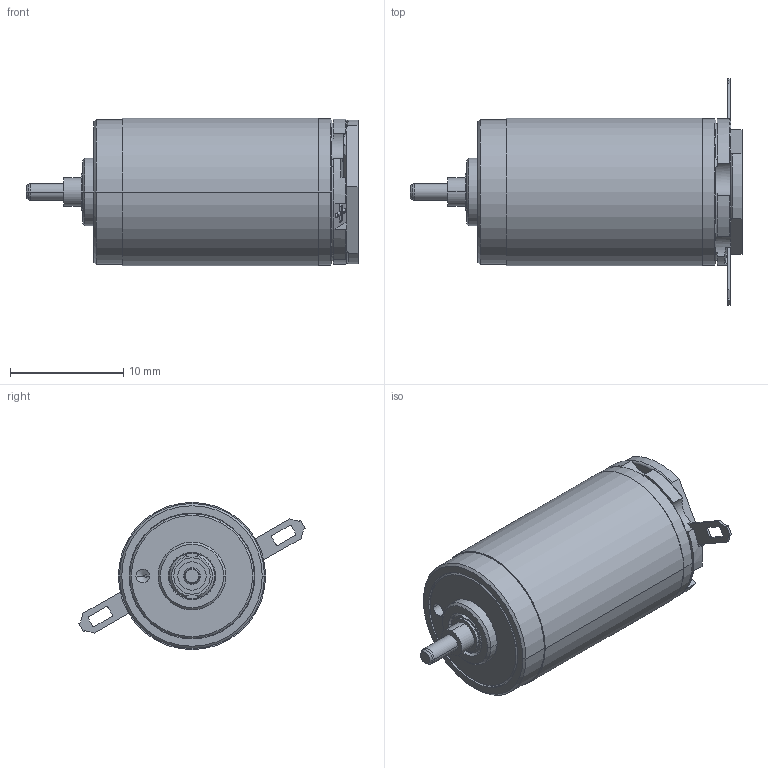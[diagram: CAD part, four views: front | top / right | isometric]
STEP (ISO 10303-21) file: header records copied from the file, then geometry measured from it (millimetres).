
FILE_DESCRIPTION((''),'2;1');
FILE_NAME('118521_15W_1W_SW0001','2016-08-22T',('mmagpetk'),(''),'CREO PARAMETRIC BY PTC INC, 2016050','CREO PARAMETRIC BY PTC INC, 2016050','');
FILE_SCHEMA(('CONFIG_CONTROL_DESIGN'));
Length unit declared in the file: millimetre
Products named in the file (1): 118521_15W_1W_SW0001
Bounding box: 29.3 x 20.01 x 13 mm (x, y, z)
Volume: 3060.4 mm3; surface area: 1528.9 mm2
Topology: 1 solids, 1 shells, 204 faces, 542 edges, 341 vertices
Faces by surface type: plane 93, cylinder 70, cone 31, torus 6, bspline 4
Entity records: 8418 total; most frequent: CARTESIAN_POINT 1514, DIRECTION 1113, ORIENTED_EDGE 1080, PRESENTATION_STYLE_ASSIGNMENT 541, STYLED_ITEM 541, CURVE_STYLE 540, EDGE_CURVE 540, AXIS2_PLACEMENT_3D 416
